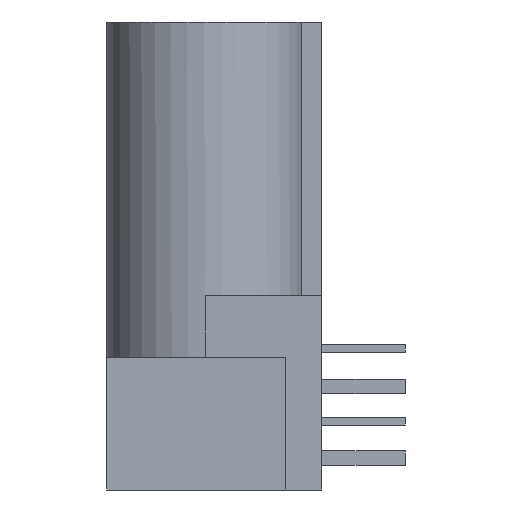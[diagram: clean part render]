
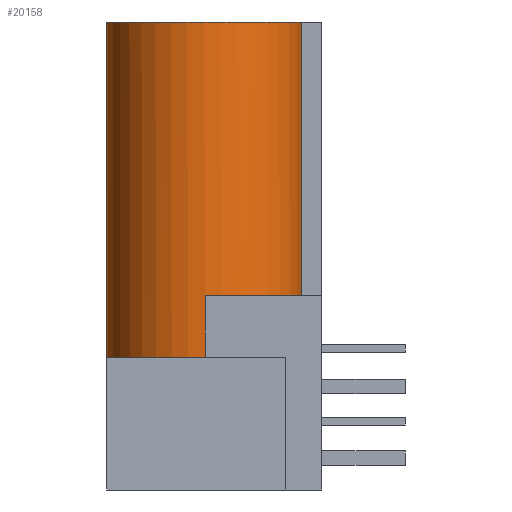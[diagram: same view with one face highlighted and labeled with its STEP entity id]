
A CAD part, left-side view. The second image highlights one B-rep face of the part: STEP entity #20158.
In plain terms, the highlighted cylindrical face has radius 3.43 mm (diameter 6.86 mm), a partial arc.
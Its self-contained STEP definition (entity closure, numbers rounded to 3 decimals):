
#2081=CARTESIAN_POINT('',(-35.48,-0.04,-1.39));
#2082=DIRECTION('',(0.,0.,-1.));
#2083=DIRECTION('',(-0.201,-0.98,0.));
#2084=AXIS2_PLACEMENT_3D('',#2081,#2082,#2083);
#2099=DIRECTION('',(0.,0.,1.));
#2100=VECTOR('',#2099,2.13);
#2101=CARTESIAN_POINT('',(-38.91,-0.04,-3.52));
#2102=LINE('',#2101,#2100);
#2119=DIRECTION('',(0.,0.,1.));
#2120=VECTOR('',#2119,11.67);
#2121=CARTESIAN_POINT('',(-35.48,3.39,-3.52));
#2122=LINE('',#2121,#2120);
#2123=DIRECTION('',(0.,0.,-1.));
#2124=VECTOR('',#2123,9.54);
#2125=CARTESIAN_POINT('',(-36.169,-3.4,8.15));
#2126=LINE('',#2125,#2124);
#2136=CARTESIAN_POINT('',(-35.48,-0.04,-3.52));
#2137=DIRECTION('',(0.,0.,1.));
#2138=DIRECTION('',(0.,1.,0.));
#2139=AXIS2_PLACEMENT_3D('',#2136,#2137,#2138);
#2275=CARTESIAN_POINT('',(-35.48,-0.04,8.15));
#2276=DIRECTION('',(0.,0.,-1.));
#2277=DIRECTION('',(-0.201,-0.98,0.));
#2278=AXIS2_PLACEMENT_3D('',#2275,#2276,#2277);
#13557=CARTESIAN_POINT('',(-36.169,-3.4,8.15));
#13558=CARTESIAN_POINT('',(-35.48,3.39,8.15));
#13559=VERTEX_POINT('',#13557);
#13560=VERTEX_POINT('',#13558);
#13567=CARTESIAN_POINT('',(-36.169,-3.4,-1.39));
#13568=VERTEX_POINT('',#13567);
#13577=CARTESIAN_POINT('',(-38.91,-0.04,-3.52));
#13578=CARTESIAN_POINT('',(-38.91,-0.04,-1.39));
#13579=VERTEX_POINT('',#13577);
#13580=VERTEX_POINT('',#13578);
#13591=CARTESIAN_POINT('',(-35.48,3.39,-3.52));
#13592=VERTEX_POINT('',#13591);
#20141=CARTESIAN_POINT('',(-35.48,-0.04,8.15));
#20142=DIRECTION('',(0.,0.,1.));
#20143=DIRECTION('',(1.,0.,0.));
#20144=AXIS2_PLACEMENT_3D('',#20141,#20142,#20143);
#20145=CYLINDRICAL_SURFACE('',#20144,3.43);
#20146=ORIENTED_EDGE('',*,*,#20100,.T.);
#20147=ORIENTED_EDGE('',*,*,#20128,.F.);
#20149=ORIENTED_EDGE('',*,*,#20148,.F.);
#20151=ORIENTED_EDGE('',*,*,#20150,.T.);
#20153=ORIENTED_EDGE('',*,*,#20152,.F.);
#20155=ORIENTED_EDGE('',*,*,#20154,.T.);
#20156=EDGE_LOOP('',(#20146,#20147,#20149,#20151,#20153,#20155));
#20157=FACE_OUTER_BOUND('',#20156,.F.);
#20158=ADVANCED_FACE('',(#20157),#20145,.T.);
#2085=CIRCLE('',#2084,3.43);
#2140=CIRCLE('',#2139,3.43);
#2279=CIRCLE('',#2278,3.43);
#20100=EDGE_CURVE('',#13568,#13580,#2085,.T.);
#20128=EDGE_CURVE('',#13579,#13580,#2102,.T.);
#20148=EDGE_CURVE('',#13592,#13579,#2140,.T.);
#20150=EDGE_CURVE('',#13592,#13560,#2122,.T.);
#20152=EDGE_CURVE('',#13559,#13560,#2279,.T.);
#20154=EDGE_CURVE('',#13559,#13568,#2126,.T.);
